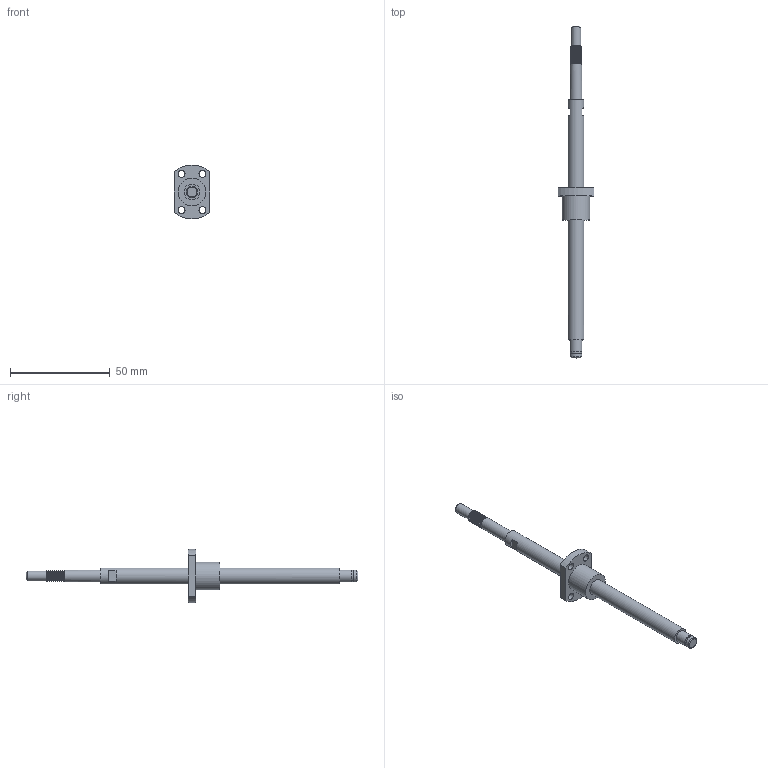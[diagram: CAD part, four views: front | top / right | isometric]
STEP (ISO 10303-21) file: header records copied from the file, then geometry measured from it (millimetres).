
FILE_DESCRIPTION(/* description */ (''),/* implementation_level */ '2;1');
FILE_NAME(/* name */ 'BSG023_asm1.stp',/* time_stamp */ '2017-01-06T13:23:40+08:00',/* author */ (''),/* organization */ (''),/* preprocessor_version */ 'ST-DEVELOPER v15',/* originating_system */ 'SIEMENS PLM Software NX 8.5',/* authorisation */ '');
FILE_SCHEMA (('AUTOMOTIVE_DESIGN { 1 0 10303 214 3 1 1 1 }'));
Length unit declared in the file: millimetre
Products named in the file (3): 01; BSG023; BSG023_asm1
Assembly tree (2 placements, depth 2):
  BSG023_asm1
    BSG023
    01
Bounding box: 18 x 166 x 26.91 mm (x, y, z)
Volume: 2677.5 mm3; surface area: 6173.8 mm2
Topology: 1 solids, 2 shells, 47 faces, 117 edges, 80 vertices
Faces by surface type: cylinder 23, plane 20, bspline 2, cone 2
Full cylindrical faces by diameter (mm): 3.5 x4, 5 x1, 5.7 x1, 6 x11, 8 x2, 14 x1
Entity records: 3579 total; most frequent: CARTESIAN_POINT 2718, DIRECTION 171, ORIENTED_EDGE 128, AXIS2_PLACEMENT_3D 76, EDGE_LOOP 71, EDGE_CURVE 64, FACE_BOUND 54, VERTEX_POINT 51
